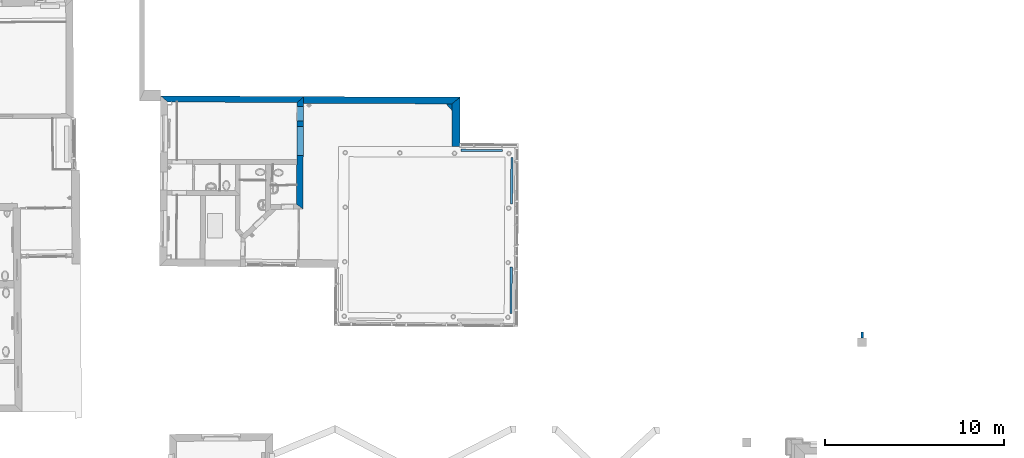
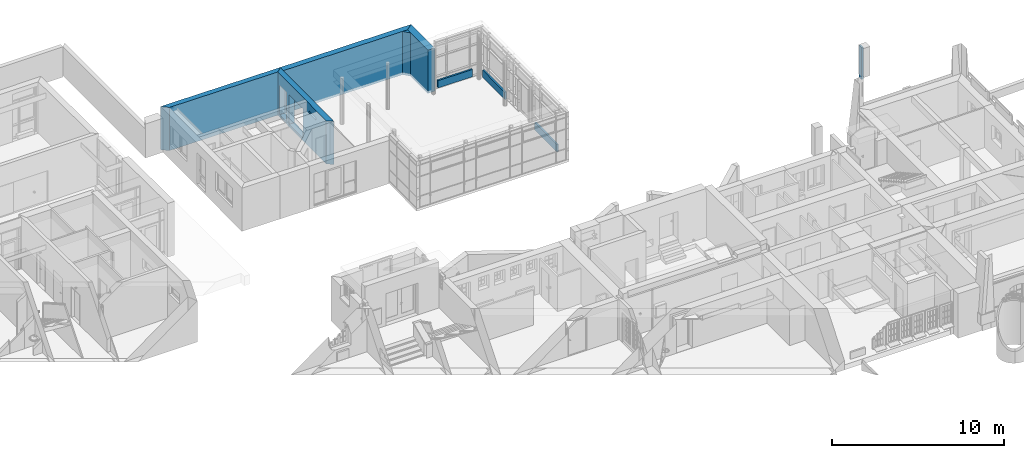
# One storey, part 56 of 196: 9 walls, 3 openings.
"""IFC2X3 building model written with IfcOpenShell, lengths in metres."""

import ifcopenshell
import ifcopenshell.guid

model = None  # the IFC model being written
_history = None  # IfcOwnerHistory: only IFC2X3 demands one
_inside = {}  # id of a spatial element -> (the spatial element, [elements in it])
_under = {}  # id of a project, library or spatial element -> (it, [spatial elements below it])
_declared = {}  # id of a project -> (the project, [libraries it declares])
_typed = {}  # id of a type object -> (the type object, [elements of that type])
_made_of = {}  # id of a material, layer set ... -> (it, [elements and type objects made of it])


def new_model(schema):
    """Start an empty IFC model of exactly this schema.

    Asked for "IFC4X3", IfcOpenShell would pick the latest addendum, in which some entities
    have other attributes; the version numbers below select the first issue.
    IFC2X3 requires an IfcOwnerHistory on every rooted entity: one is made here for all.
    """
    global model, _history
    if schema == "IFC4X3":
        model = ifcopenshell.file(schema_version=(4, 3, 0, 0))
    else:
        model = ifcopenshell.file(schema=schema)
    _inside.clear()
    _under.clear()
    _declared.clear()
    _typed.clear()
    _made_of.clear()
    _history = None
    if model.schema == "IFC2X3":
        org = make("IfcOrganization", Name="unknown")
        user = make(
            "IfcPersonAndOrganization",
            ThePerson=make("IfcPerson", FamilyName="unknown"),
            TheOrganization=org,
        )
        app = make(
            "IfcApplication",
            ApplicationDeveloper=org,
            Version="unknown",
            ApplicationFullName="unknown",
            ApplicationIdentifier="unknown",
        )
        _history = make(
            "IfcOwnerHistory",
            OwningUser=user,
            OwningApplication=app,
            ChangeAction="ADDED",
            CreationDate=0,
        )
    return model


def make(cls, **values):
    """One entity of the class cls with the attributes given. An attribute that is None is left unset."""
    return model.create_entity(
        cls, **{name: value for name, value in values.items() if value is not None}
    )


def entity(cls, *values):
    """Any entity or typed value of the class cls, its attributes in the order of the schema. None: left unset."""
    e = model.create_entity(cls)
    for i, value in enumerate(values):
        if value is not None:
            e[i] = value
    return e


def rooted(cls, **values):
    """An entity with a GlobalId (a new one), such as an element, a storey or a relation."""
    return make(cls, GlobalId=ifcopenshell.guid.new(), OwnerHistory=_history, **values)


def si_unit(unit_type, name, prefix=None):
    """IfcSIUnit, for example si_unit("LENGTHUNIT", "METRE", prefix="MILLI")."""
    return make("IfcSIUnit", UnitType=unit_type, Prefix=prefix, Name=name)


def converted_unit(unit_type, name, factor, base, dimensions=None, offset=None):
    """IfcConversionBasedUnit, such as the inch: factor (a typed value) times the base unit."""
    return make(
        "IfcConversionBasedUnit"
        if offset is None
        else "IfcConversionBasedUnitWithOffset",
        ConversionOffset=offset,
        Dimensions=None
        if dimensions is None
        else entity("IfcDimensionalExponents", *dimensions),
        UnitType=unit_type,
        Name=name,
        ConversionFactor=make(
            "IfcMeasureWithUnit", ValueComponent=factor, UnitComponent=base
        ),
    )


def derived_unit(unit_type, elements):
    """IfcDerivedUnit: a product of units, each with its exponent."""
    return make(
        "IfcDerivedUnit",
        Elements=[
            make("IfcDerivedUnitElement", Unit=unit, Exponent=power)
            for unit, power in elements
        ],
        UnitType=unit_type,
    )


def money_unit(currency):
    """IfcMonetaryUnit."""
    return make("IfcMonetaryUnit", Currency=currency)


def assignment(units):
    """IfcUnitAssignment: the units of a project."""
    return None if units is None else make("IfcUnitAssignment", Units=units)


def point(xyz):
    """IfcCartesianPoint."""
    return None if xyz is None else make("IfcCartesianPoint", Coordinates=xyz)


def direction(xyz):
    """IfcDirection."""
    return None if xyz is None else make("IfcDirection", DirectionRatios=xyz)


def frame(location, z_axis=None, x_axis=None):
    """IfcAxis2Placement3D, a coordinate frame: its origin and axes. An axis left out is left unset."""
    return make(
        "IfcAxis2Placement3D",
        Location=point(location),
        Axis=direction(z_axis),
        RefDirection=direction(x_axis),
    )


def frame_2d(location, x_axis=None):
    """IfcAxis2Placement2D, a coordinate frame in the plane: its origin and x axis."""
    return make(
        "IfcAxis2Placement2D", Location=point(location), RefDirection=direction(x_axis)
    )


def origin_with_axes():
    """The frame at (0, 0, 0) with the z axis (0, 0, 1) and the x axis (1, 0, 0) written out."""
    return frame((0.0, 0.0, 0.0), z_axis=(0.0, 0.0, 1.0), x_axis=(1.0, 0.0, 0.0))


def origin_2d_with_axis():
    """The frame at (0, 0) in the plane with the x axis (1, 0) written out."""
    return frame_2d((0.0, 0.0), x_axis=(1.0, 0.0))


def place(relative_to, where):
    """IfcLocalPlacement: puts the frame where relative to a parent placement (None: the world)."""
    return make(
        "IfcLocalPlacement", PlacementRelTo=relative_to, RelativePlacement=where
    )


def context(
    kind, dimensions, precision=None, world=None, true_north=None, identifier=None
):
    """IfcGeometricRepresentationContext, for example the 3D "Model" context."""
    return make(
        "IfcGeometricRepresentationContext",
        ContextIdentifier=identifier,
        ContextType=kind,
        CoordinateSpaceDimension=dimensions,
        Precision=precision,
        WorldCoordinateSystem=world,
        TrueNorth=true_north,
    )


def subcontext(parent, identifier, kind, view, scale=None):
    """IfcGeometricRepresentationSubContext, for example "Body" below "Model"."""
    return make(
        "IfcGeometricRepresentationSubContext",
        ContextIdentifier=identifier,
        ContextType=kind,
        ParentContext=parent,
        TargetScale=scale,
        TargetView=view,
    )


def project(units=None, contexts=None):
    """IfcProject with its units and contexts."""
    return rooted(
        "IfcProject",
        Name="project",
        RepresentationContexts=contexts,
        UnitsInContext=assignment(units),
    )


def spatial(cls, under=None, at=None, **own):
    """A site, building, storey or space (cls), placed at a placement, below another one or the project."""
    s = rooted(cls, ObjectPlacement=at, **own)
    if under is not None:
        _under.setdefault(under.id(), (under, []))[1].append(s)
    return s


def polyline(points):
    """IfcPolyline through the points."""
    return make("IfcPolyline", Points=[point(p) for p in points])


def profile(cls, at=None, kind="AREA", **sizes):
    """A parametric profile (cls). Its sizes go by their IFC names, for example OverallWidth=200.0."""
    return make(cls, ProfileType=kind, Position=at, **sizes)


def rectangle(**sizes):
    """IfcRectangleProfileDef."""
    return profile("IfcRectangleProfileDef", **sizes)


def outline(outer, holes=None, kind="AREA"):
    """IfcArbitraryClosedProfileDef: a profile drawn as a closed curve; with holes, ...WithVoids."""
    if holes is None:
        return make("IfcArbitraryClosedProfileDef", ProfileType=kind, OuterCurve=outer)
    return make(
        "IfcArbitraryProfileDefWithVoids",
        ProfileType=kind,
        OuterCurve=outer,
        InnerCurves=holes,
    )


def extrude(swept, where, along, depth):
    """IfcExtrudedAreaSolid: the profile swept, set in the frame where, extruded along a direction by depth."""
    return make(
        "IfcExtrudedAreaSolid",
        SweptArea=swept,
        Position=where,
        ExtrudedDirection=direction(along),
        Depth=depth,
    )


def shape(context_of_items, identifier, shape_type, items):
    """IfcShapeRepresentation: the items that make up one representation, for example the "Body"."""
    return make(
        "IfcShapeRepresentation",
        ContextOfItems=context_of_items,
        RepresentationIdentifier=identifier,
        RepresentationType=shape_type,
        Items=items,
    )


def material(Name=None, Category=None):
    """IfcMaterial."""
    return make("IfcMaterial", Name=Name, Category=Category)


def layer(
    of_material, thickness, ventilated=None, Name=None, Category=None, Priority=None
):
    """IfcMaterialLayer: one layer of a wall or slab, of a material (None: an air gap)."""
    return make(
        "IfcMaterialLayer",
        Material=of_material,
        LayerThickness=thickness,
        IsVentilated=ventilated,
        Name=Name,
        Category=Category,
        Priority=Priority,
    )


def layer_set(layers, Name=None):
    """IfcMaterialLayerSet."""
    return make("IfcMaterialLayerSet", MaterialLayers=layers, LayerSetName=Name)


def layer_usage(for_layer_set, set_direction, sense, offset, extent=None):
    """IfcMaterialLayerSetUsage: how a layer set lies in its element."""
    return make(
        "IfcMaterialLayerSetUsage",
        ForLayerSet=for_layer_set,
        LayerSetDirection=set_direction,
        DirectionSense=sense,
        OffsetFromReferenceLine=offset,
        ReferenceExtent=extent,
    )


def made_of(thing, what):
    """Note that an element or type object is made of a material, layer set ...; save() writes the relation."""
    if what is not None:
        _made_of.setdefault(what.id(), (what, []))[1].append(thing)
    return thing


def type_object(cls, material=None, **own):
    """A type object (cls), such as IfcWallType, which elements share."""
    return made_of(rooted(cls, **own), material)


def element(
    cls,
    number,
    at=None,
    inside=None,
    cuts=None,
    type_object=None,
    material=None,
    context=None,
    identifier="Body",
    shape_type=None,
    held_by="IfcProductDefinitionShape",
    body=None,
    shapes=None,
    **own,
):
    """One element of the class cls, such as IfcWall. Its Tag is "e" and its number.

    at: its placement. inside: the storey or other place that contains it. cuts: it is an
    opening in that element (IfcRelVoidsElement). A single representation is given by context,
    identifier, shape_type and body (its items); several are given by shapes. held_by: the class
    of the entity that holds the representations. save() writes the other relations.
    """
    e = rooted(cls, Tag="e%d" % number, ObjectPlacement=at, **own)
    if body is not None:
        shapes = [shape(context, identifier, shape_type, body)]
    if shapes is not None:
        e.Representation = make(held_by, Representations=shapes)
    if inside is not None:
        _inside.setdefault(inside.id(), (inside, []))[1].append(e)
    if cuts is not None:
        rooted(
            "IfcRelVoidsElement", RelatingBuildingElement=cuts, RelatedOpeningElement=e
        )
    if type_object is not None:
        _typed.setdefault(type_object.id(), (type_object, []))[1].append(e)
    return made_of(e, material)


def aggregate(whole, parts):
    """IfcRelAggregates: a whole, such as a stair, and the parts it consists of."""
    return rooted("IfcRelAggregates", RelatingObject=whole, RelatedObjects=parts)


def save(model, path):
    """Write the relations noted so far, then the file.

    IfcRelAggregates (storeys below a building ...), IfcRelContainedInSpatialStructure (elements
    in a storey), IfcRelDefinesByType, IfcRelAssociatesMaterial and IfcRelDeclares: one each for
    every whole, place, type object, material and project.
    """
    for whole, parts in _under.values():
        aggregate(whole, parts)
    for where, things in _inside.values():
        rooted(
            "IfcRelContainedInSpatialStructure",
            RelatedElements=things,
            RelatingStructure=where,
        )
    for kind, things in _typed.values():
        rooted("IfcRelDefinesByType", RelatedObjects=things, RelatingType=kind)
    for what, things in _made_of.values():
        rooted("IfcRelAssociatesMaterial", RelatedObjects=things, RelatingMaterial=what)
    for by, libraries in _declared.values():
        rooted("IfcRelDeclares", RelatingContext=by, RelatedDefinitions=libraries)
    model.write(path)


model = new_model("IFC2X3")

# Units and contexts
model_context = context("Model", 3, precision=1e-05, world=origin_with_axes(), true_north=direction((0.0, 1.0)))
body_context = subcontext(model_context, "Body", "Model", "MODEL_VIEW")
ifc_project = project(units=[si_unit("LENGTHUNIT", "METRE"), si_unit("AREAUNIT", "SQUARE_METRE"), si_unit("VOLUMEUNIT", "CUBIC_METRE"), converted_unit("PLANEANGLEUNIT", "DEGREE", entity("IfcPlaneAngleMeasure", 0.0174532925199), si_unit("PLANEANGLEUNIT", "RADIAN"), dimensions=[0, 0, 0, 0, 0, 0, 0]), money_unit("EUR"), converted_unit("TIMEUNIT", "Year", entity("IfcTimeMeasure", 31556926.0), si_unit("TIMEUNIT", "SECOND"), dimensions=[0, 0, 1, 0, 0, 0, 0]), si_unit("MASSUNIT", "GRAM", prefix="KILO"), si_unit("THERMODYNAMICTEMPERATUREUNIT", "DEGREE_CELSIUS"), si_unit("LUMINOUSINTENSITYUNIT", "LUMEN"), si_unit("ENERGYUNIT", "JOULE", prefix="MEGA"), derived_unit("THERMALCONDUCTANCEUNIT", [(si_unit("POWERUNIT", "WATT"), 1), (si_unit("LENGTHUNIT", "METRE"), -1), (si_unit("THERMODYNAMICTEMPERATUREUNIT", "KELVIN"), -1)]), derived_unit("SPECIFICHEATCAPACITYUNIT", [(si_unit("ENERGYUNIT", "JOULE"), 1), (si_unit("MASSUNIT", "GRAM", prefix="KILO"), -1), (si_unit("THERMODYNAMICTEMPERATUREUNIT", "KELVIN"), -1)]), derived_unit("MASSDENSITYUNIT", [(si_unit("MASSUNIT", "GRAM", prefix="KILO"), 1), (si_unit("VOLUMEUNIT", "CUBIC_METRE"), -1)])], contexts=[model_context])

# Site, building, storey
site_placement = place(None, origin_with_axes())
site = spatial("IfcSite", under=ifc_project, at=site_placement, Name="Gelände", CompositionType="ELEMENT")
building_placement = place(site_placement, origin_with_axes())
building = spatial("IfcBuilding", under=site, at=building_placement, Name="Gebäude", CompositionType="ELEMENT")
storey_placement = place(building_placement, frame((0.0, 0.0, -3.0), z_axis=(0.0, 0.0, 1.0), x_axis=(1.0, 0.0, 0.0)))
storey = spatial("IfcBuildingStorey", under=building, at=storey_placement, Name="KELLERGESCHOSS", CompositionType="ELEMENT", Elevation=-3.0)

# Walls
ifc_material_1 = material(Name="05_ALLGEMEIN - TRAGENDE BAUTEILE")
ifc_layer_1 = layer(ifc_material_1, 0.38, ventilated="UNKNOWN")
ifc_layer_set_1 = layer_set([ifc_layer_1], Name="05_ALLGEMEIN - TRAGENDE BAUTEILE 0.38")
ifc_layer_usage_1 = layer_usage(ifc_layer_set_1, "AXIS2", "NEGATIVE", 0.0)
wall_type_1 = type_object("IfcWallType", Name="05_ALLGEMEIN - TRAGENDE BAUTEILE 380", PredefinedType="ELEMENTEDWALL")
wall_1_placement = place(storey_placement, frame((5.99588853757, 48.1525389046, 0.44), z_axis=(0.0, 0.0, 1.0), x_axis=(-0.999996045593, 0.00281225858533, 0.0)))
element("IfcWallStandardCase", 1, at=wall_1_placement, inside=storey, type_object=wall_type_1, material=ifc_layer_usage_1, Name="Wand-030", ObjectType="ELEMENTEDWALL", context=body_context, shape_type="SweptSolid", body=[
    extrude(outline(polyline([(-0.000518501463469, -0.38), (8.74629610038, -0.38), (8.74781060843, 0.0), (0.460000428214, 0.0), (-0.000518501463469, -0.38)])), origin_with_axes(), (0.0, 0.0, 1.0), 3.06),
])
ifc_layer_2 = layer(ifc_material_1, 0.250000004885, ventilated="UNKNOWN")
ifc_layer_set_2 = layer_set([ifc_layer_2], Name="05_ALLGEMEIN - TRAGENDE BAUTEILE 0.25")
ifc_layer_usage_2 = layer_usage(ifc_layer_set_2, "AXIS2", "NEGATIVE", 0.25)
wall_type_2 = type_object("IfcWallType", Name="05_ALLGEMEIN - TRAGENDE BAUTEILE 250", PredefinedType="ELEMENTEDWALL")
wall_2_placement = place(storey_placement, frame((5.20439857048, 48.1547647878, 0.44), z_axis=(0.0, 0.0, 1.0), x_axis=(0.664760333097, -0.747056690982, 0.0)))
element("IfcWallStandardCase", 2, at=wall_2_placement, inside=storey, type_object=wall_type_2, material=ifc_layer_usage_2, Name="Wand-030", ObjectType="ELEMENTEDWALL", context=body_context, shape_type="SweptSolid", body=[
    extrude(outline(polyline([(0.221058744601, 0.247023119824), (0.0, 0.0), (0.496339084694, 0.0), (0.221058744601, 0.247023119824)])), origin_with_axes(), (0.0, 0.0, 1.0), 3.06),
])
ifc_layer_3 = layer(ifc_material_1, 0.125, ventilated="UNKNOWN")
ifc_layer_set_3 = layer_set([ifc_layer_3], Name="05_ALLGEMEIN - TRAGENDE BAUTEILE 0.125")
ifc_layer_usage_3 = layer_usage(ifc_layer_set_3, "AXIS2", "NEGATIVE", 0.125)
wall_type_3 = type_object("IfcWallType", Name="05_ALLGEMEIN - TRAGENDE BAUTEILE 125", PredefinedType="ELEMENTEDWALL")
wall_3_placement = place(storey_placement, frame((28.3991915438, 35.4001816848, -0.1), z_axis=(0.0, 0.0, 1.0), x_axis=(-0.00149452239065, -0.999998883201, 0.0)))
element("IfcWallStandardCase", 3, at=wall_3_placement, inside=storey, type_object=wall_type_3, material=ifc_layer_usage_3, Name="Wand-031", ObjectType="ELEMENTEDWALL", context=body_context, shape_type="SweptSolid", body=[
    extrude(outline(polyline([(0.0, 0.0), (0.316713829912, 0.0), (0.316713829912, 0.125), (0.0, 0.125), (0.0, 0.0)])), origin_with_axes(), (0.0, 0.0, 1.0), 2.23827441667),
])
ifc_layer_4 = layer(ifc_material_1, 0.46, ventilated="UNKNOWN")
ifc_layer_set_4 = layer_set([ifc_layer_4], Name="05_ALLGEMEIN - TRAGENDE BAUTEILE 0.46")
ifc_layer_usage_4 = layer_usage(ifc_layer_set_4, "AXIS2", "NEGATIVE", 0.46)
wall_type_4 = type_object("IfcWallType", Name="05_ALLGEMEIN - TRAGENDE BAUTEILE 460", PredefinedType="ELEMENTEDWALL")
wall_4_placement = place(storey_placement, frame((5.98594472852, 45.7717937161, 0.44), z_axis=(0.0, 0.0, 1.0), x_axis=(0.00417672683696, 0.999991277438, 0.0)))
element("IfcWallStandardCase", 4, at=wall_4_placement, inside=storey, type_object=wall_type_4, material=ifc_layer_usage_4, Name="Wand-030", ObjectType="ELEMENTEDWALL", context=body_context, shape_type="SweptSolid", body=[
    extrude(outline(polyline([(0.0, 0.0), (2.76076630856, 0.0), (2.38013829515, 0.46), (0.0, 0.46), (0.0, 0.0)])), origin_with_axes(), (0.0, 0.0, 1.0), 3.06),
])
ifc_material_2 = material(Name="01_ALLGEMEIN - BAUTEIL")
ifc_layer_5 = layer(ifc_material_2, 0.12, ventilated="UNKNOWN")
ifc_layer_set_5 = layer_set([ifc_layer_5], Name="01_ALLGEMEIN - BAUTEIL 0.12")
ifc_layer_usage_5 = layer_usage(ifc_layer_set_5, "AXIS2", "NEGATIVE", 0.12)
wall_type_5 = type_object("IfcWallType", Name="01_ALLGEMEIN - BAUTEIL 120", PredefinedType="ELEMENTEDWALL")
wall_5_placement = place(storey_placement, frame((6.05040358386, 45.4996534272, 0.812562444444), z_axis=(0.0, 0.0, 1.0), x_axis=(0.99997234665, -0.00743679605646, 0.0)))
element("IfcWallStandardCase", 5, at=wall_5_placement, inside=storey, type_object=wall_type_5, material=ifc_layer_usage_5, Name="Wand-030", ObjectType="ELEMENTEDWALL", context=body_context, shape_type="SweptSolid", body=[
    extrude(outline(polyline([(0.0, 0.0), (2.3005378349, 0.0), (2.3005378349, 0.12), (0.0, 0.12), (0.0, 0.0)])), origin_with_axes(), (0.0, 0.0, 1.0), 0.516129),
])
ifc_layer_usage_6 = layer_usage(ifc_layer_set_5, "AXIS2", "NEGATIVE", 0.12)
wall_6_placement = place(storey_placement, frame((8.82438642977, 45.1446426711, 0.812562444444), z_axis=(0.0, 0.0, 1.0), x_axis=(-0.00609152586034, -0.999981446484, 0.0)))
element("IfcWallStandardCase", 6, at=wall_6_placement, inside=storey, type_object=wall_type_5, material=ifc_layer_usage_6, Name="Wand-031", ObjectType="ELEMENTEDWALL", context=body_context, shape_type="SweptSolid", body=[
    extrude(outline(polyline([(0.0, 0.0), (2.59864282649, 0.0), (2.59864282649, 0.12), (0.0, 0.12), (0.0, 0.0)])), origin_with_axes(), (0.0, 0.0, 1.0), 0.516129),
])
ifc_layer_usage_7 = layer_usage(ifc_layer_set_5, "AXIS2", "NEGATIVE", 0.12)
wall_7_placement = place(storey_placement, frame((8.78964436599, 39.0513602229, 0.812562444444), z_axis=(0.0, 0.0, 1.0), x_axis=(-0.0057694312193, -0.999983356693, 0.0)))
element("IfcWallStandardCase", 7, at=wall_7_placement, inside=storey, type_object=wall_type_5, material=ifc_layer_usage_7, Name="Wand-032", ObjectType="ELEMENTEDWALL", context=body_context, shape_type="SweptSolid", body=[
    extrude(outline(polyline([(0.0, 0.0), (2.59945855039, 0.0), (2.59945855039, 0.12), (0.0, 0.12), (0.0, 0.0)])), origin_with_axes(), (0.0, 0.0, 1.0), 0.516129),
])
ifc_layer_6 = layer(ifc_material_1, 0.34, ventilated="UNKNOWN")
ifc_layer_set_6 = layer_set([ifc_layer_6], Name="05_ALLGEMEIN - TRAGENDE BAUTEILE 0.34")
ifc_layer_usage_8 = layer_usage(ifc_layer_set_6, "AXIS2", "NEGATIVE", 0.0)
wall_type_6 = type_object("IfcWallType", Name="05_ALLGEMEIN - TRAGENDE BAUTEILE 340", PredefinedType="ELEMENTEDWALL")
wall_8_placement = place(storey_placement, frame((-2.75160785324, 48.218274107, 0.44), z_axis=(0.0, 0.0, 1.0), x_axis=(-0.999983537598, 0.00573799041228, 0.0)))
element("IfcWallStandardCase", 8, at=wall_8_placement, inside=storey, type_object=wall_type_6, material=ifc_layer_usage_8, Name="Wand-031", ObjectType="ELEMENTEDWALL", context=body_context, shape_type="SweptSolid", body=[
    extrude(outline(polyline([(-0.000360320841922, -0.34), (7.99394082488, -0.34), (7.59389207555, 0.0), (0.360000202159, 0.0), (-0.000360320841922, -0.34)])), origin_with_axes(), (0.0, 0.0, 1.0), 3.06),
])

# Wall, openings
ifc_layer_7 = layer(ifc_material_1, 0.36, ventilated="UNKNOWN")
ifc_layer_set_7 = layer_set([ifc_layer_7], Name="05_ALLGEMEIN - TRAGENDE BAUTEILE 0.36")
ifc_layer_usage_9 = layer_usage(ifc_layer_set_7, "AXIS2", "NEGATIVE", 0.36)
wall_type_7 = type_object("IfcWallType", Name="05_ALLGEMEIN - TRAGENDE BAUTEILE 360", PredefinedType="ELEMENTEDWALL")
wall_9_placement = place(storey_placement, frame((-2.79195048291, 42.2836959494, 0.44), z_axis=(0.0, 0.0, 1.0), x_axis=(0.0067977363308, 0.999976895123, 0.0)))
wall_9 = element("IfcWallStandardCase", 9, at=wall_9_placement, inside=storey, type_object=wall_type_7, material=ifc_layer_usage_9, Name="Wand-031", ObjectType="ELEMENTEDWALL", context=body_context, shape_type="SweptSolid", body=[
    extrude(outline(polyline([(0.0, 0.0), (6.27471546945, 0.0), (5.93433376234, 0.36), (0.261574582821, 0.36), (0.0, 0.0)])), origin_with_axes(), (0.0, 0.0, 1.0), 3.06),
])
opening_1_placement = place(wall_9_placement, frame((1.84940547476, 0.0, 2.357975), z_axis=(0.0, 0.0, 1.0), x_axis=(1.0, 0.0, 0.0)))
element("IfcOpeningElement", 10, at=opening_1_placement, cuts=wall_9, Name="Fenster-016", context=body_context, shape_type="SweptSolid", body=[
    extrude(rectangle(XDim=0.803579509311, YDim=0.200729, at=origin_2d_with_axis()), frame((0.0, -0.36, 0.1003645), z_axis=(0.0, 1.0, 0.0), x_axis=(-1.0, 0.0, 0.0)), (0.0, 0.0, 1.0), 1.08),
])
opening_2_placement = place(wall_9_placement, frame((3.79235777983, 0.0, 0.17), z_axis=(0.0, 0.0, 1.0), x_axis=(1.0, 0.0, 0.0)))
element("IfcOpeningElement", 11, at=opening_2_placement, cuts=wall_9, Name="Tür-022", context=body_context, shape_type="SweptSolid", body=[
    extrude(rectangle(XDim=1.62500757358, YDim=2.079769, at=origin_2d_with_axis()), frame((0.0, 0.36, 1.0398845), z_axis=(0.0, -1.0, 0.0), x_axis=(1.0, 0.0, 0.0)), (0.0, 0.0, 1.0), 1.08),
])
opening_3_placement = place(wall_9_placement, frame((5.31327479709, 0.0, 0.17), z_axis=(0.0, 0.0, 1.0), x_axis=(1.0, 0.0, 0.0)))
element("IfcOpeningElement", 12, at=opening_3_placement, cuts=wall_9, Name="Tür-022", context=body_context, shape_type="SweptSolid", body=[
    extrude(rectangle(XDim=0.814084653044, YDim=2.084297, at=origin_2d_with_axis()), frame((0.0, 0.36, 1.0421485), z_axis=(0.0, -1.0, 0.0), x_axis=(1.0, 0.0, 0.0)), (0.0, 0.0, 1.0), 1.08),
])

save(model, "model.ifc")
